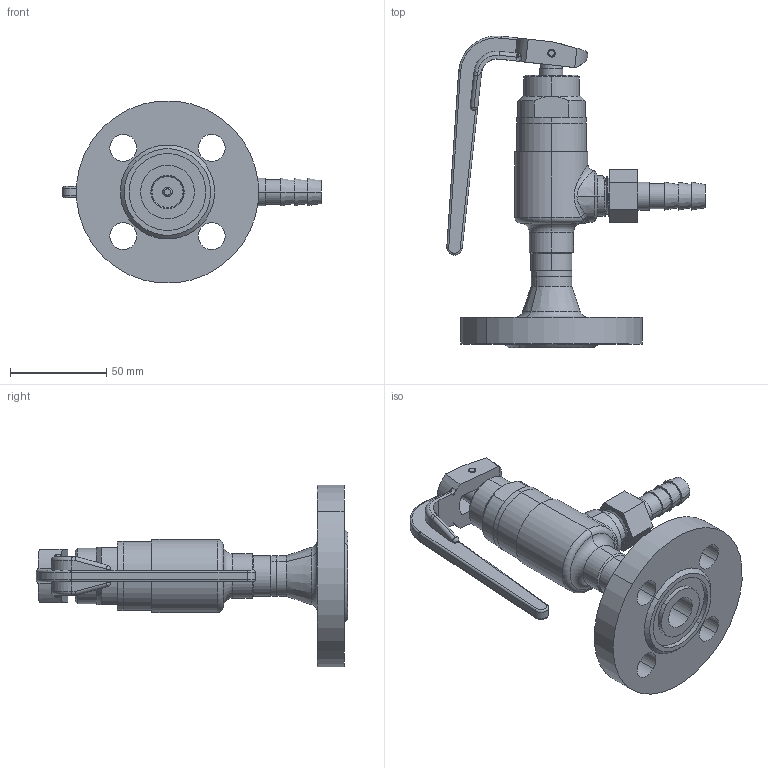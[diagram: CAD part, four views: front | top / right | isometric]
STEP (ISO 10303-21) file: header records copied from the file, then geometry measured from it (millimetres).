
FILE_DESCRIPTION (( 'STEP AP214' ), '1' );
FILE_NAME ('SSO46064-10-DN15_DIN-FL#G1-2.STEP', '2006-03-14T13:00:14', ( 'Herr Grams' ), ( 'AWP GmbH' ), 'SwSTEP 2.0', 'SolidWorks 2002296', '' );
FILE_SCHEMA (( 'AUTOMOTIVE_DESIGN' ));
Length unit declared in the file: millimetre
Products named in the file (11): SSO46064-10-DN15_DIN-FL#G1-2; SSO46062-10-DN15_R1#G1-2_Standard; Geh44354-10-DN15_PS40_R1#G1-2_Standard; Dichtkolben44354-10-DN15_PS40_Standard; Spindel44354-10-DN15_PS40_Standard; Deckel44354-10-DN15_PS40_Standard; Stift4x28_Standard; Hebel44354-10-DN15_Standard; Schlauchtülle_G1-2durchm13_Standard; Flansch-DIN2635-Nut_PS40_DIN-Flansch-DN015_PS40-Nut; bead46064-DN15_Standard
Assembly tree (10 placements, depth 3):
  SSO46064-10-DN15_DIN-FL#G1-2
    SSO46062-10-DN15_R1#G1-2_Standard
      Schlauchtülle_G1-2durchm13_Standard
      Deckel44354-10-DN15_PS40_Standard
      Dichtkolben44354-10-DN15_PS40_Standard
      Stift4x28_Standard
      Geh44354-10-DN15_PS40_R1#G1-2_Standard
      Spindel44354-10-DN15_PS40_Standard
      Hebel44354-10-DN15_Standard
    bead46064-DN15_Standard
    Flansch-DIN2635-Nut_PS40_DIN-Flansch-DN015_PS40-Nut
Bounding box: 134.46 x 162.33 x 94.64 mm (x, y, z)
Volume: 191254.6 mm3; surface area: 71942 mm2
Topology: 9 solids, 9 shells, 330 faces, 755 edges, 469 vertices
Faces by surface type: cylinder 150, plane 77, cone 51, torus 29, bspline 21, sphere 2
Entity records: 22723 total; most frequent: CARTESIAN_POINT 14769, DIRECTION 1644, ORIENTED_EDGE 1498, EDGE_CURVE 749, AXIS2_PLACEMENT_3D 687, VERTEX_POINT 467, EDGE_LOOP 390, CIRCLE 364
